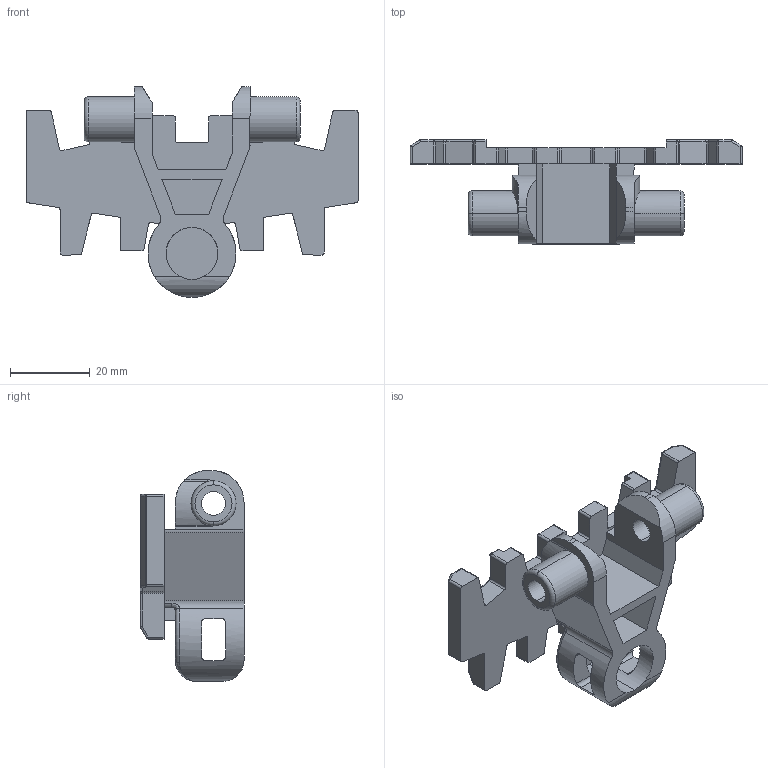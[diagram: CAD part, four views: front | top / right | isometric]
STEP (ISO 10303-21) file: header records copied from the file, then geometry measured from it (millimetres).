
FILE_DESCRIPTION (( 'STEP AP214' ), '1' );
FILE_NAME ('FMCU 5A.step', '2017-04-04T13:34:38', ( '' ), ( '' ), 'SwSTEP 2.0', 'SolidWorks 2015', '' );
FILE_SCHEMA (( 'AUTOMOTIVE_DESIGN' ));
Length unit declared in the file: millimetre
Products named in the file (1): FMCU 5A
Bounding box: 83 x 26 x 52.7 mm (x, y, z)
Volume: 20857 mm3; surface area: 13067.2 mm2
Topology: 1 solids, 1 shells, 261 faces, 689 edges, 414 vertices
Faces by surface type: cylinder 121, plane 94, sphere 20, torus 16, bspline 10
Entity records: 8531 total; most frequent: CARTESIAN_POINT 2103, DIRECTION 1373, ORIENTED_EDGE 1342, EDGE_CURVE 671, AXIS2_PLACEMENT_3D 502, VERTEX_POINT 414, VECTOR 369, LINE 369
